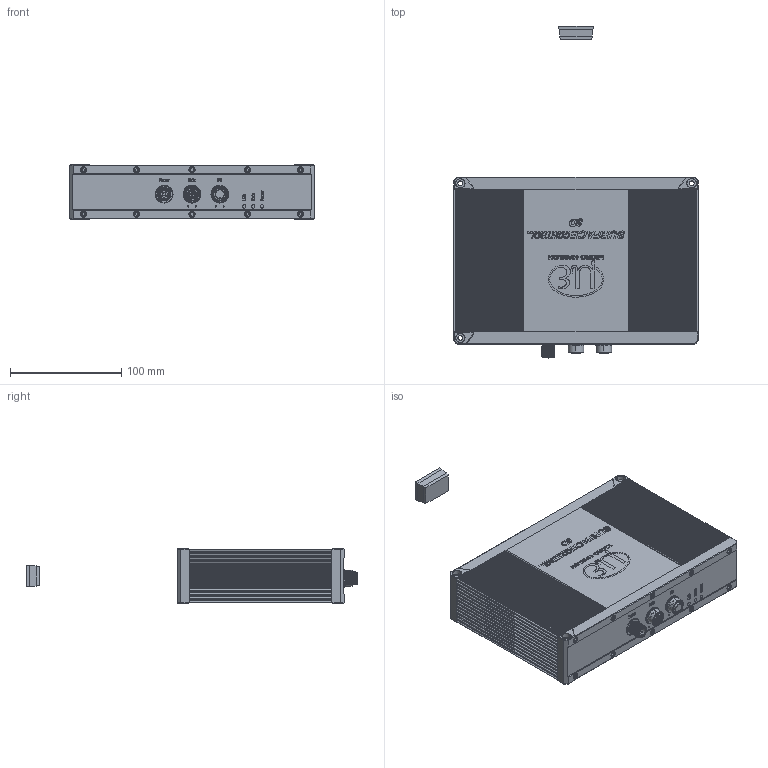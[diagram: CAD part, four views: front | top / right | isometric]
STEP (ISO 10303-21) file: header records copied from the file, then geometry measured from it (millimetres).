
FILE_DESCRIPTION((''),'2;1');
FILE_NAME('0000663622_ASM','2024-02-20T09:07:15',('11000958'),(''),'CREO PARAMETRIC BY PTC INC, 2022424','CREO PARAMETRIC BY PTC INC, 2022424','');
FILE_SCHEMA(('AUTOMOTIVE_DESIGN { 1 0 10303 214 1 1 1 1 }'));
Products named in the file (4): 0000663625; 0000663630; 0000663659; 0000663622_ASM
Assembly tree (3 placements, depth 2):
  0000663622_ASM
    0000663625
    0000663630
    0000663659
Bounding box: 220 x 298.5 x 49 mm (x, y, z)
Volume: 1522568 mm3; surface area: 169480.9 mm2
Topology: 5 solids, 9 shells, 4297 faces, 11351 edges, 7336 vertices
Faces by surface type: plane 1753, cylinder 1543, extrusion 727, torus 127, cone 102, bspline 35, sphere 10
Entity records: 231188 total; most frequent: CARTESIAN_POINT 69139, ORIENTED_EDGE 22698, DIRECTION 21236, PRESENTATION_STYLE_ASSIGNMENT 13994, STYLED_ITEM 11378, CURVE_STYLE 11367, EDGE_CURVE 11349, AXIS2_PLACEMENT_3D 7390
